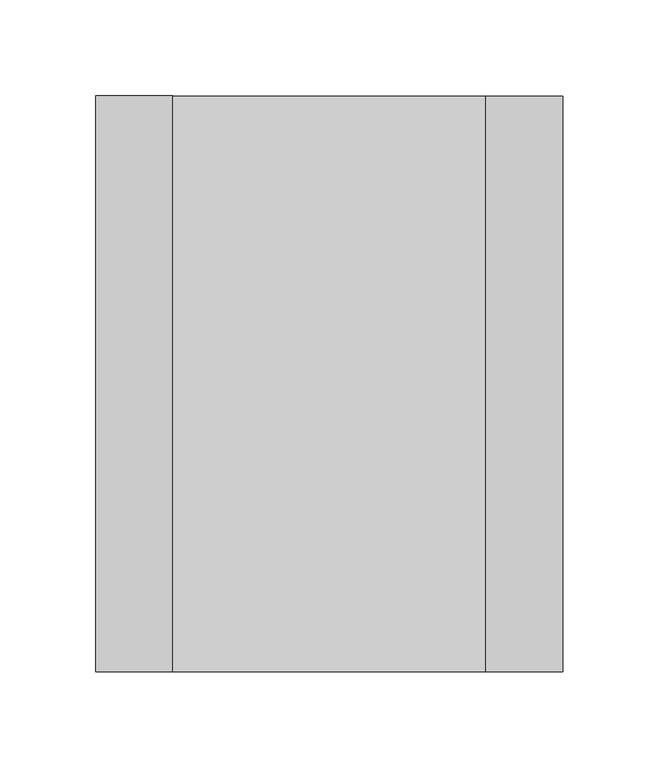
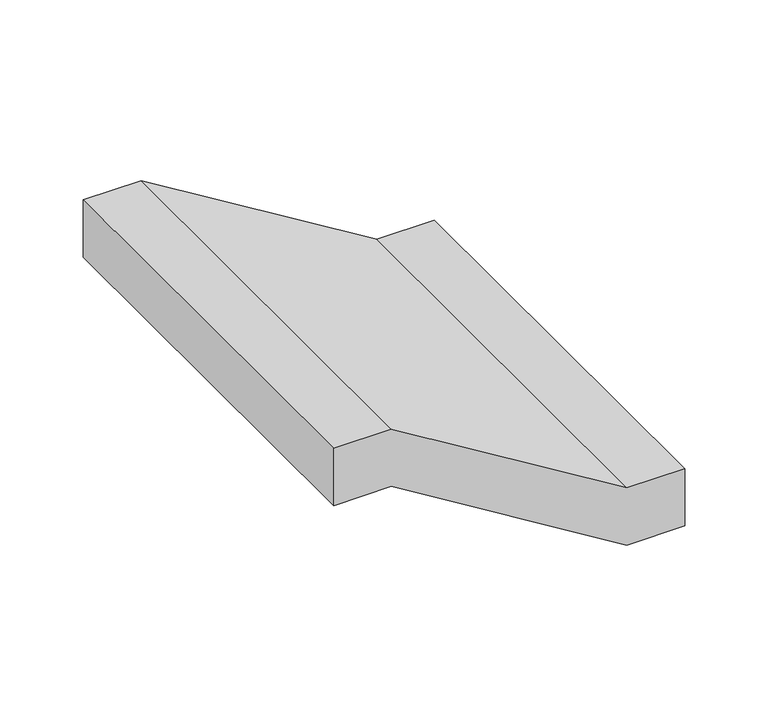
"""IFC4 building model written with IfcOpenShell, lengths in millimetres: cable carrier fitting geometry, BAKS_Vertical bypass : OPNNJ_H42."""

import ifcopenshell
import ifcopenshell.guid

model = None  # the IFC model being written
_history = None  # IfcOwnerHistory: only IFC2X3 demands one
_inside = {}  # id of a spatial element -> (the spatial element, [elements in it])
_under = {}  # id of a project, library or spatial element -> (it, [spatial elements below it])
_declared = {}  # id of a project -> (the project, [libraries it declares])
_typed = {}  # id of a type object -> (the type object, [elements of that type])
_made_of = {}  # id of a material, layer set ... -> (it, [elements and type objects made of it])


def new_model(schema):
    """Start an empty IFC model of exactly this schema.

    Asked for "IFC4X3", IfcOpenShell would pick the latest addendum, in which some entities
    have other attributes; the version numbers below select the first issue.
    IFC2X3 requires an IfcOwnerHistory on every rooted entity: one is made here for all.
    """
    global model, _history
    if schema == "IFC4X3":
        model = ifcopenshell.file(schema_version=(4, 3, 0, 0))
    else:
        model = ifcopenshell.file(schema=schema)
    _inside.clear()
    _under.clear()
    _declared.clear()
    _typed.clear()
    _made_of.clear()
    _history = None
    if model.schema == "IFC2X3":
        org = make("IfcOrganization", Name="unknown")
        user = make(
            "IfcPersonAndOrganization",
            ThePerson=make("IfcPerson", FamilyName="unknown"),
            TheOrganization=org,
        )
        app = make(
            "IfcApplication",
            ApplicationDeveloper=org,
            Version="unknown",
            ApplicationFullName="unknown",
            ApplicationIdentifier="unknown",
        )
        _history = make(
            "IfcOwnerHistory",
            OwningUser=user,
            OwningApplication=app,
            ChangeAction="ADDED",
            CreationDate=0,
        )
    return model


def make(cls, **values):
    """One entity of the class cls with the attributes given. An attribute that is None is left unset."""
    return model.create_entity(
        cls, **{name: value for name, value in values.items() if value is not None}
    )


def rooted(cls, **values):
    """An entity with a GlobalId (a new one), such as an element, a storey or a relation."""
    return make(cls, GlobalId=ifcopenshell.guid.new(), OwnerHistory=_history, **values)


def si_unit(unit_type, name, prefix=None):
    """IfcSIUnit, for example si_unit("LENGTHUNIT", "METRE", prefix="MILLI")."""
    return make("IfcSIUnit", UnitType=unit_type, Prefix=prefix, Name=name)


def assignment(units):
    """IfcUnitAssignment: the units of a project."""
    return None if units is None else make("IfcUnitAssignment", Units=units)


def point(xyz):
    """IfcCartesianPoint."""
    return None if xyz is None else make("IfcCartesianPoint", Coordinates=xyz)


def direction(xyz):
    """IfcDirection."""
    return None if xyz is None else make("IfcDirection", DirectionRatios=xyz)


def frame(location, z_axis=None, x_axis=None):
    """IfcAxis2Placement3D, a coordinate frame: its origin and axes. An axis left out is left unset."""
    return make(
        "IfcAxis2Placement3D",
        Location=point(location),
        Axis=direction(z_axis),
        RefDirection=direction(x_axis),
    )


def origin():
    """The frame at (0, 0, 0) with its axes left unset."""
    return frame((0.0, 0.0, 0.0))


def place(relative_to, where):
    """IfcLocalPlacement: puts the frame where relative to a parent placement (None: the world)."""
    return make(
        "IfcLocalPlacement", PlacementRelTo=relative_to, RelativePlacement=where
    )


def context(
    kind, dimensions, precision=None, world=None, true_north=None, identifier=None
):
    """IfcGeometricRepresentationContext, for example the 3D "Model" context."""
    return make(
        "IfcGeometricRepresentationContext",
        ContextIdentifier=identifier,
        ContextType=kind,
        CoordinateSpaceDimension=dimensions,
        Precision=precision,
        WorldCoordinateSystem=world,
        TrueNorth=true_north,
    )


def project(units=None, contexts=None):
    """IfcProject with its units and contexts."""
    return rooted(
        "IfcProject",
        Name="project",
        RepresentationContexts=contexts,
        UnitsInContext=assignment(units),
    )


def spatial(cls, under=None, at=None, **own):
    """A site, building, storey or space (cls), placed at a placement, below another one or the project."""
    s = rooted(cls, ObjectPlacement=at, **own)
    if under is not None:
        _under.setdefault(under.id(), (under, []))[1].append(s)
    return s


def polyline(points):
    """IfcPolyline through the points."""
    return make("IfcPolyline", Points=[point(p) for p in points])


def outline(outer, holes=None, kind="AREA"):
    """IfcArbitraryClosedProfileDef: a profile drawn as a closed curve; with holes, ...WithVoids."""
    if holes is None:
        return make("IfcArbitraryClosedProfileDef", ProfileType=kind, OuterCurve=outer)
    return make(
        "IfcArbitraryProfileDefWithVoids",
        ProfileType=kind,
        OuterCurve=outer,
        InnerCurves=holes,
    )


def extrude(swept, where, along, depth):
    """IfcExtrudedAreaSolid: the profile swept, set in the frame where, extruded along a direction by depth."""
    return make(
        "IfcExtrudedAreaSolid",
        SweptArea=swept,
        Position=where,
        ExtrudedDirection=direction(along),
        Depth=depth,
    )


def shape(context_of_items, identifier, shape_type, items):
    """IfcShapeRepresentation: the items that make up one representation, for example the "Body"."""
    return make(
        "IfcShapeRepresentation",
        ContextOfItems=context_of_items,
        RepresentationIdentifier=identifier,
        RepresentationType=shape_type,
        Items=items,
    )


def source(mapping_origin, context_of_items, identifier, shape_type, items):
    """IfcRepresentationMap: a shape defined once, which mapped items show again and again."""
    return make(
        "IfcRepresentationMap",
        MappingOrigin=mapping_origin,
        MappedRepresentation=shape(context_of_items, identifier, shape_type, items),
    )


def transform(
    local_origin,
    x_axis=None,
    y_axis=None,
    z_axis=None,
    scale=None,
    scale2=None,
    scale3=None,
    uniform=True,
):
    """IfcCartesianTransformationOperator3D, or its non-uniform kind. x_axis, y_axis, z_axis: its Axis1, 2, 3."""
    if uniform:
        return make(
            "IfcCartesianTransformationOperator3D",
            Axis1=direction(x_axis),
            Axis2=direction(y_axis),
            LocalOrigin=point(local_origin),
            Scale=scale,
            Axis3=direction(z_axis),
        )
    return make(
        "IfcCartesianTransformationOperator3DnonUniform",
        Axis1=direction(x_axis),
        Axis2=direction(y_axis),
        LocalOrigin=point(local_origin),
        Scale=scale,
        Axis3=direction(z_axis),
        Scale2=scale2,
        Scale3=scale3,
    )


def mapped(mapping_source, mapping_target):
    """IfcMappedItem: shows the shape of a source again, moved by a transform."""
    return make(
        "IfcMappedItem", MappingSource=mapping_source, MappingTarget=mapping_target
    )


def made_of(thing, what):
    """Note that an element or type object is made of a material, layer set ...; save() writes the relation."""
    if what is not None:
        _made_of.setdefault(what.id(), (what, []))[1].append(thing)
    return thing


def element(
    cls,
    number,
    at=None,
    inside=None,
    cuts=None,
    type_object=None,
    material=None,
    context=None,
    identifier="Body",
    shape_type=None,
    held_by="IfcProductDefinitionShape",
    body=None,
    shapes=None,
    **own,
):
    """One element of the class cls, such as IfcWall. Its Tag is "e" and its number.

    at: its placement. inside: the storey or other place that contains it. cuts: it is an
    opening in that element (IfcRelVoidsElement). A single representation is given by context,
    identifier, shape_type and body (its items); several are given by shapes. held_by: the class
    of the entity that holds the representations. save() writes the other relations.
    """
    e = rooted(cls, Tag="e%d" % number, ObjectPlacement=at, **own)
    if body is not None:
        shapes = [shape(context, identifier, shape_type, body)]
    if shapes is not None:
        e.Representation = make(held_by, Representations=shapes)
    if inside is not None:
        _inside.setdefault(inside.id(), (inside, []))[1].append(e)
    if cuts is not None:
        rooted(
            "IfcRelVoidsElement", RelatingBuildingElement=cuts, RelatedOpeningElement=e
        )
    if type_object is not None:
        _typed.setdefault(type_object.id(), (type_object, []))[1].append(e)
    return made_of(e, material)


def aggregate(whole, parts):
    """IfcRelAggregates: a whole, such as a stair, and the parts it consists of."""
    return rooted("IfcRelAggregates", RelatingObject=whole, RelatedObjects=parts)


def save(model, path):
    """Write the relations noted so far, then the file.

    IfcRelAggregates (storeys below a building ...), IfcRelContainedInSpatialStructure (elements
    in a storey), IfcRelDefinesByType, IfcRelAssociatesMaterial and IfcRelDeclares: one each for
    every whole, place, type object, material and project.
    """
    for whole, parts in _under.values():
        aggregate(whole, parts)
    for where, things in _inside.values():
        rooted(
            "IfcRelContainedInSpatialStructure",
            RelatedElements=things,
            RelatingStructure=where,
        )
    for kind, things in _typed.values():
        rooted("IfcRelDefinesByType", RelatedObjects=things, RelatingType=kind)
    for what, things in _made_of.values():
        rooted("IfcRelAssociatesMaterial", RelatedObjects=things, RelatingMaterial=what)
    for by, libraries in _declared.values():
        rooted("IfcRelDeclares", RelatingContext=by, RelatedDefinitions=libraries)
    model.write(path)


def cable_carrier_fitting_2b67af39(model_context):
    return source(origin(), model_context, "Body", "SweptSolid", [
        extrude(outline(polyline([(21.0, -121.5), (-21.0, -121.5), (-21.0, -81.5), (-121.0, 81.5), (-121.0, 121.5), (-79.0, 121.5), (-79.0, 81.5), (21.0, -81.5), (21.0, -121.5)])), frame((0.0, -150.0, 0.0), z_axis=(0.0, 1.0, 0.0), x_axis=(0.0, 0.0, 1.0)), (0.0, 0.0, 1.0), 300.0),
    ])


if __name__ == "__main__":
    model = new_model("IFC4")
    model_context = context("Model", 3, world=origin())
    ifc_project = project(units=[si_unit("LENGTHUNIT", "METRE", prefix="MILLI")], contexts=[model_context])
    site = spatial("IfcSite", under=ifc_project)
    building = spatial("IfcBuilding", under=site)
    placement = place(None, origin())
    cable_carrier_fitting_shape = cable_carrier_fitting_2b67af39(model_context)
    element("IfcCableCarrierFitting", 1, ObjectType="BAKS_Vertical bypass : OPNNJ_H42", at=placement, inside=building, context=model_context, shape_type="MappedRepresentation", body=[
        mapped(cable_carrier_fitting_shape, transform((0.0, 0.0, 0.0), x_axis=(1.0, 0.0, 0.0), y_axis=(0.0, 1.0, 0.0), z_axis=(0.0, 0.0, 1.0))),
    ])
    save(model, "model.ifc")
